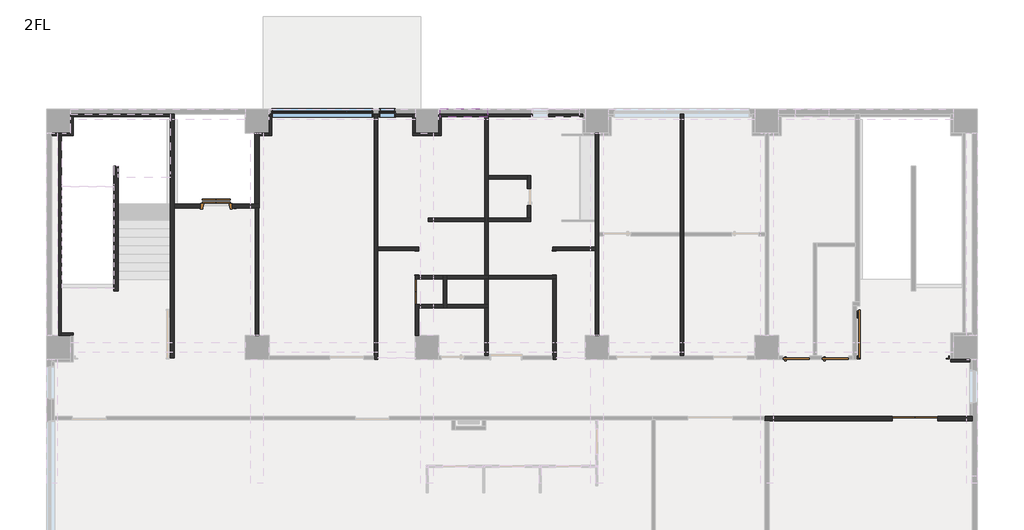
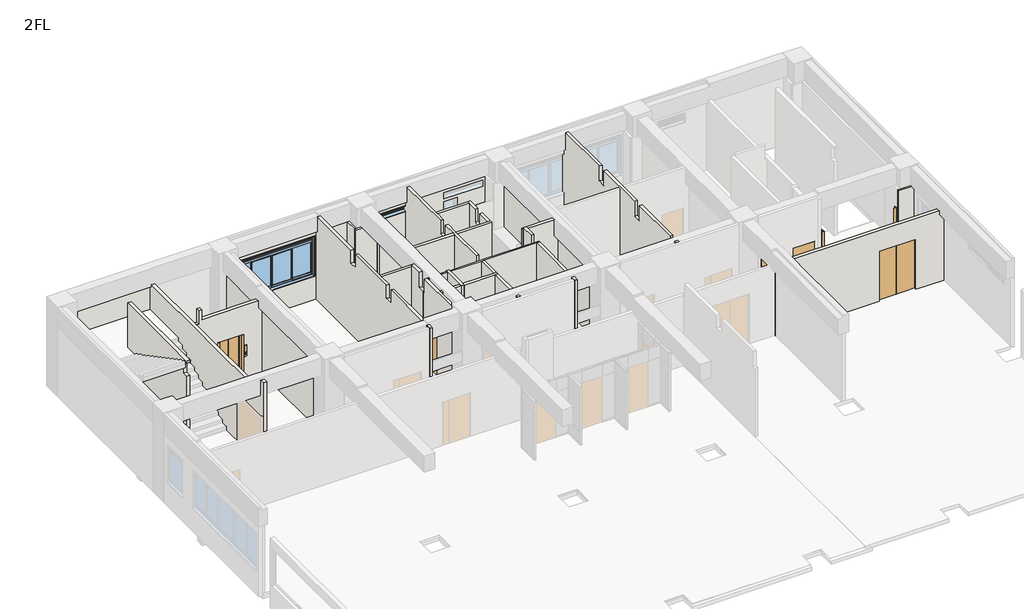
# One storey, part 3 of 7: 41 walls, 8 doors, 3 windows.
"""IFC4 building model written with IfcOpenShell, lengths in millimetres."""

from ifc_helpers import new_model, si_unit, frame, origin, place, context, project, spatial, polyline, outline, extrude, faceted_brep, transform, mapped, element, save
from components import door_0812e9ce, door_dd0264bc, door_f9cae23c, door_9fa6e922, door_14d6dc4f, sd13_d994cb3e, ag_07_7ad97628, aw5_68b6661f, aw9_1008a672

model = new_model("IFC4")

# Units and contexts
model_context = context("Model", 3, world=origin())
ifc_project = project(units=[si_unit("LENGTHUNIT", "METRE", prefix="MILLI")], contexts=[model_context])

# Site, building, storey
site = spatial("IfcSite", under=ifc_project)
building = spatial("IfcBuilding", under=site)
storey = spatial("IfcBuildingStorey", under=building, Name="2FL", Elevation=4100.0)

# Doors
placement = place(None, origin())
door_shape = door_0812e9ce(model_context)
element("IfcDoor", 1, ObjectType="営_片開き扉 : LD3 950*2000", at=placement, inside=storey, context=model_context, shape_type="MappedRepresentation", body=[
    mapped(door_shape, transform((27410.0, 15640.0, 4100.0), x_axis=(1.0, 0.0, 0.0), y_axis=(0.0, 1.0, 0.0), z_axis=(0.0, 0.0, 1.0))),
])
element("IfcDoor", 2, ObjectType="営_片開き扉 : SD4b 950*2000", at=placement, inside=storey, context=model_context, shape_type="MappedRepresentation", body=[
    mapped(door_shape, transform((26030.0, 15640.0, 4100.0), x_axis=(1.0, 0.0, 0.0), y_axis=(0.0, 1.0, 0.0), z_axis=(0.0, 0.0, 1.0))),
])
door_2_shape = door_dd0264bc(model_context)
element("IfcDoor", 3, ObjectType="営_両開き扉 : SD3b 1600*2300", at=placement, inside=storey, context=model_context, shape_type="MappedRepresentation", body=[
    mapped(door_2_shape, transform((30235.0, 13485.0, 4100.0), x_axis=(1.0, 0.0, 0.0), y_axis=(0.0, 1.0, 0.0), z_axis=(0.0, 0.0, 1.0))),
])
door_3_shape = door_f9cae23c(model_context)
element("IfcDoor", 4, ObjectType="営_両開き扉 : LD5 900*2000", at=placement, inside=storey, context=model_context, shape_type="MappedRepresentation", body=[
    mapped(door_3_shape, transform((12640.0, 17975.0, 4100.0), x_axis=(0.0, 1.0, 0.0), y_axis=(-1.0, 0.0, 0.0), z_axis=(0.0, 0.0, 1.0))),
])
door_4_shape = door_9fa6e922(model_context)
element("IfcDoor", 5, ObjectType="営_EVドア : EVドア", at=placement, inside=storey, context=model_context, shape_type="MappedRepresentation", body=[
    mapped(door_4_shape, transform((5560.0, 21000.0, 4100.0), x_axis=(1.0, 0.0, 0.0), y_axis=(0.0, 1.0, 0.0), z_axis=(0.0, 0.0, 1.0))),
])
door_5_shape = door_14d6dc4f(model_context)
element("IfcDoor", 6, ObjectType="営_三方枠 : S1_850*2000", at=placement, inside=storey, context=model_context, shape_type="MappedRepresentation", body=[
    mapped(door_5_shape, transform((12640.0, 18990.25, 4100.0), x_axis=(0.0, 1.0, 0.0), y_axis=(-1.0, 0.0, 0.0), z_axis=(0.0, 0.0, 1.0))),
])
element("IfcDoor", 7, ObjectType="営_三方枠 : S1_850*2000", at=placement, inside=storey, context=model_context, shape_type="MappedRepresentation", body=[
    mapped(door_5_shape, transform((17500.0, 18990.25, 4100.0), x_axis=(0.0, 1.0, 0.0), y_axis=(-1.0, 0.0, 0.0), z_axis=(0.0, 0.0, 1.0))),
])
sd13_shape = sd13_d994cb3e(model_context)
element("IfcDoor", 8, ObjectType="営_随閉扉 B階段 2～4F : SD13", at=placement, inside=storey, context=model_context, shape_type="MappedRepresentation", body=[
    mapped(sd13_shape, transform((28100.0, 15640.0, 4100.0), x_axis=(0.0, -1.0, 0.0), y_axis=(1.0, 0.0, 0.0), z_axis=(0.0, 0.0, 1.0))),
])

# Walls
element("IfcWall", 9, ObjectType="(内壁)150_RC", at=placement, inside=storey, context=model_context, shape_type="Brep", body=[
    faceted_brep([(29435.0, 13560.0, 6400.0), (29435.0, 13560.0, 4100.0), (24925.0, 13560.0, 4100.0), (24925.0, 13560.0, 7200.0), (25225.0, 13560.0, 7200.0), (25225.0, 13560.0, 7350.0), (32050.0, 13560.0, 7350.0), (32050.0, 13560.0, 7200.0), (32160.0, 13560.0, 7200.0), (32250.0, 13560.0, 7200.0), (32250.0, 13560.0, 4100.0), (32160.0, 13560.0, 4100.0), (31035.0, 13560.0, 4100.0), (31035.0, 13560.0, 6400.0), (29435.0, 13410.0, 4100.0), (29435.0, 13410.0, 6400.0), (31035.0, 13410.0, 6400.0), (31035.0, 13410.0, 4100.0), (32250.0, 13410.0, 4100.0), (32250.0, 13410.0, 7200.0), (32050.0, 13410.0, 7200.0), (32050.0, 13410.0, 7350.0), (25225.0, 13410.0, 7350.0), (25225.0, 13410.0, 7200.0), (25075.0, 13410.0, 7200.0), (24925.0, 13410.0, 7200.0), (24925.0, 13410.0, 4100.0), (25075.0, 13410.0, 4100.0), (24925.0, 13440.0, 4100.0), (24925.0, 13440.0, 7200.0)], [[[0, 1, 2, 3, 4, 5, 6, 7, 8, 9, 10, 11, 12, 13]], [[14, 15, 16, 17, 18, 19, 20, 21, 22, 23, 24, 25, 26, 27]], [[10, 18, 17, 12, 11]], [[26, 28, 2, 1, 14, 27]], [[2, 28, 26, 25, 29, 3]], [[1, 0, 15, 14]], [[13, 12, 17, 16]], [[0, 13, 16, 15]], [[4, 23, 22, 5]], [[23, 4, 3, 29, 25, 24]], [[7, 20, 19, 9, 8]], [[20, 7, 6, 21]], [[6, 5, 22, 21]], [[18, 10, 9, 19]]]),
])
element("IfcWall", 10, ObjectType="(内壁)W4", at=placement, inside=storey, context=model_context, shape_type="Brep", body=[
    faceted_brep([(18940.0, 23580.0, 4100.0), (18940.0, 23490.0, 4100.0), (18940.0, 19550.0, 4100.0), (18940.0, 19430.0, 4100.0), (18940.0, 16420.0, 4100.0), (18940.0, 16420.0, 7200.0), (18940.0, 19430.0, 7200.0), (18940.0, 19550.0, 7200.0), (18940.0, 23490.0, 7200.0), (18940.0, 23580.0, 7200.0), (19060.0, 16420.0, 4100.0), (19060.0, 19940.0, 4100.0), (19060.0, 20060.0, 4100.0), (19060.0, 23490.0, 4100.0), (19060.0, 23580.0, 4100.0), (19060.0, 23580.0, 7200.0), (19060.0, 23490.0, 7200.0), (19060.0, 20060.0, 7200.0), (19060.0, 19940.0, 7200.0), (19060.0, 16420.0, 7200.0)], [[[0, 1, 2, 3, 4, 5, 6, 7, 8, 9]], [[10, 11, 12, 13, 14, 15, 16, 17, 18, 19]], [[10, 4, 3, 2, 1, 0, 14, 13, 12, 11]], [[4, 10, 19, 5]], [[14, 0, 9, 15]], [[9, 8, 7, 6, 5, 19, 18, 17, 16, 15]]]),
])
element("IfcWall", 11, ObjectType="(内壁)W3", at=placement, inside=storey, context=model_context, shape_type="Brep", body=[
    faceted_brep([(21940.0, 24250.0, 4100.0), (21940.0, 20060.0, 4100.0), (21940.0, 19940.0, 4100.0), (21940.0, 15700.0, 4100.0), (21940.0, 15700.0, 8040.0), (21940.0, 15825.0, 8040.0), (21940.0, 15825.0, 7250.0), (21940.0, 16175.0, 7250.0), (21940.0, 16175.0, 8040.0), (21940.0, 18495.0, 8040.0), (21940.0, 18495.0, 7350.0), (21940.0, 18845.0, 7350.0), (21940.0, 18845.0, 8040.0), (21940.0, 21165.0, 8040.0), (21940.0, 21165.0, 7350.0), (21940.0, 21515.0, 7350.0), (21940.0, 21515.0, 8040.0), (21940.0, 24050.0, 8040.0), (21940.0, 24050.0, 7250.0), (21940.0, 24250.0, 7250.0), (22060.0, 15700.0, 4100.0), (22060.0, 19940.0, 4100.0), (22060.0, 20060.0, 4100.0), (22060.0, 24250.0, 4100.0), (22060.0, 24250.0, 7250.0), (22060.0, 24050.0, 7250.0), (22060.0, 24050.0, 8040.0), (22060.0, 21515.0, 8040.0), (22060.0, 21515.0, 7350.0), (22060.0, 21165.0, 7350.0), (22060.0, 21165.0, 8040.0), (22060.0, 18845.0, 8040.0), (22060.0, 18845.0, 7350.0), (22060.0, 18495.0, 7350.0), (22060.0, 18495.0, 8040.0), (22060.0, 16175.0, 8040.0), (22060.0, 16175.0, 7250.0), (22060.0, 15825.0, 7250.0), (22060.0, 15825.0, 8040.0), (22060.0, 15700.0, 8040.0)], [[[0, 1, 2, 3, 4, 5, 6, 7, 8, 9, 10, 11, 12, 13, 14, 15, 16, 17, 18, 19]], [[20, 21, 22, 23, 24, 25, 26, 27, 28, 29, 30, 31, 32, 33, 34, 35, 36, 37, 38, 39]], [[3, 2, 1, 0, 23, 22, 21, 20]], [[4, 39, 38, 5]], [[8, 35, 34, 9]], [[26, 17, 16, 27]], [[12, 31, 30, 13]], [[23, 0, 19, 24]], [[4, 3, 20, 39]], [[37, 6, 5, 38]], [[6, 37, 36, 7]], [[7, 36, 35, 8]], [[25, 18, 17, 26]], [[18, 25, 24, 19]], [[33, 10, 9, 34]], [[10, 33, 32, 11]], [[11, 32, 31, 12]], [[29, 14, 13, 30]], [[14, 29, 28, 15]], [[15, 28, 27, 16]]]),
])
element("IfcWall", 12, ObjectType="(内壁)150_RC", at=placement, inside=storey, context=model_context, shape_type="Brep", body=[
    faceted_brep([(3925.0, 24250.0, 4100.0), (3925.0, 15635.0, 4100.0), (3925.0, 15635.0, 7950.0), (3925.0, 15825.0, 7950.0), (3925.0, 15825.0, 7350.0), (3925.0, 24050.0, 7350.0), (3925.0, 24050.0, 7250.0), (3925.0, 24250.0, 7250.0), (4075.0, 15635.0, 4100.0), (4075.0, 20925.0, 4100.0), (4075.0, 21075.0, 4100.0), (4075.0, 24250.0, 4100.0), (4075.0, 24250.0, 7250.0), (4075.0, 24050.0, 7250.0), (4075.0, 24050.0, 7350.0), (4075.0, 21075.0, 7350.0), (4075.0, 20925.0, 7350.0), (4075.0, 15825.0, 7350.0), (4075.0, 15825.0, 7950.0), (4075.0, 15635.0, 7950.0)], [[[0, 1, 2, 3, 4, 5, 6, 7]], [[8, 9, 10, 11, 12, 13, 14, 15, 16, 17, 18, 19]], [[1, 0, 11, 10, 9, 8]], [[2, 1, 8, 19]], [[2, 19, 18, 3]], [[11, 0, 7, 12]], [[13, 6, 5, 14]], [[6, 13, 12, 7]], [[4, 17, 16, 15, 14, 5]], [[17, 4, 3, 18]]]),
])
element("IfcWall", 13, ObjectType="(内壁)150_RC", at=placement, inside=storey, context=model_context, shape_type="Brep", body=[
    faceted_brep([(7075.0, 20925.0, 7200.0), (7060.0, 20925.0, 7200.0), (6940.0, 20925.0, 7200.0), (6775.0, 20925.0, 7200.0), (6775.0, 20925.0, 7500.0), (4306.3, 20925.0, 7500.0), (4306.3, 20925.0, 7950.0), (4175.0, 20925.0, 7950.0), (4175.0, 20925.0, 7350.0), (4075.0, 20925.0, 7350.0), (4075.0, 20925.0, 4100.0), (5000.0, 20925.0, 4100.0), (5000.0, 20925.0, 6200.0), (6120.0, 20925.0, 6200.0), (6120.0, 20925.0, 4100.0), (6940.0, 20925.0, 4100.0), (7060.0, 20925.0, 4100.0), (7075.0, 20925.0, 4100.0), (6775.0, 21075.0, 7200.0), (6925.0, 21075.0, 7200.0), (7075.0, 21075.0, 7200.0), (7075.0, 21075.0, 4100.0), (6925.0, 21075.0, 4100.0), (6120.0, 21075.0, 4100.0), (6120.0, 21075.0, 6200.0), (5000.0, 21075.0, 6200.0), (5000.0, 21075.0, 4100.0), (4075.0, 21075.0, 4100.0), (4075.0, 21075.0, 7350.0), (4175.0, 21075.0, 7350.0), (4175.0, 21075.0, 7950.0), (4306.3, 21075.0, 7950.0), (4306.3, 21075.0, 7500.0), (6775.0, 21075.0, 7500.0)], [[[0, 1, 2, 3, 4, 5, 6, 7, 8, 9, 10, 11, 12, 13, 14, 15, 16, 17]], [[18, 19, 20, 21, 22, 23, 24, 25, 26, 27, 28, 29, 30, 31, 32, 33]], [[21, 17, 16, 15, 14, 23, 22]], [[10, 27, 26, 11]], [[6, 31, 30, 7]], [[17, 21, 20, 0]], [[27, 10, 9, 28]], [[18, 3, 2, 1, 0, 20, 19]], [[3, 18, 33, 4]], [[26, 25, 12, 11]], [[24, 23, 14, 13]], [[25, 24, 13, 12]], [[5, 32, 31, 6]], [[32, 5, 4, 33]], [[29, 8, 7, 30]], [[8, 29, 28, 9]]]),
])
element("IfcWall", 14, ObjectType="(内壁)150_RC", at=placement, inside=storey, context=model_context, shape_type="Brep", body=[
    faceted_brep([(7075.0, 21075.0, 4100.0), (7075.0, 23490.0, 4100.0), (7075.0, 23580.0, 4100.0), (7075.0, 23580.0, 7200.0), (7075.0, 23490.0, 7200.0), (7075.0, 21075.0, 7200.0), (6925.0, 23580.0, 4100.0), (6925.0, 21075.0, 4100.0), (6925.0, 21075.0, 7200.0), (6925.0, 23580.0, 7200.0)], [[[0, 1, 2, 3, 4, 5]], [[6, 7, 8, 9]], [[0, 7, 6, 2, 1]], [[7, 0, 5, 8]], [[2, 6, 9, 3]], [[5, 4, 3, 9, 8]]]),
])
element("IfcWall", 15, ObjectType="(内壁)W4", at=placement, inside=storey, context=model_context, shape_type="SweptSolid", body=[
    extrude(outline(polyline([(6940.0, 20925.0), (7060.0, 20925.0), (7060.0, 16420.0), (6940.0, 16420.0), (6940.0, 20925.0)])), frame((0.0, 0.0, 4100.0), z_axis=(0.0, 0.0, 1.0), x_axis=(1.0, 0.0, 0.0)), (0.0, 0.0, 1.0), 3100.0),
])
element("IfcWall", 16, ObjectType="(内壁)W4", at=placement, inside=storey, context=model_context, shape_type="Brep", body=[
    faceted_brep([(11140.0, 24250.0, 4100.0), (11140.0, 15700.0, 4100.0), (11140.0, 15580.0, 4100.0), (11140.0, 15580.0, 7950.0), (11140.0, 15700.0, 7950.0), (11140.0, 15825.0, 7950.0), (11140.0, 15825.0, 7250.0), (11140.0, 16175.0, 7250.0), (11140.0, 16175.0, 7950.0), (11140.0, 18495.0, 7950.0), (11140.0, 18495.0, 7350.0), (11140.0, 18845.0, 7350.0), (11140.0, 18845.0, 7950.0), (11140.0, 21165.0, 7950.0), (11140.0, 21165.0, 7350.0), (11140.0, 21515.0, 7350.0), (11140.0, 21515.0, 7950.0), (11140.0, 24050.0, 7950.0), (11140.0, 24050.0, 7250.0), (11140.0, 24250.0, 7250.0), (11260.0, 15580.0, 4100.0), (11260.0, 19430.0, 4100.0), (11260.0, 19550.0, 4100.0), (11260.0, 24250.0, 4100.0), (11260.0, 24250.0, 7250.0), (11260.0, 24050.0, 7250.0), (11260.0, 24050.0, 7950.0), (11260.0, 21515.0, 7950.0), (11260.0, 21515.0, 7350.0), (11260.0, 21165.0, 7350.0), (11260.0, 21165.0, 7950.0), (11260.0, 19550.0, 7950.0), (11260.0, 19430.0, 7950.0), (11260.0, 18845.0, 7950.0), (11260.0, 18845.0, 7350.0), (11260.0, 18495.0, 7350.0), (11260.0, 18495.0, 7950.0), (11260.0, 16175.0, 7950.0), (11260.0, 16175.0, 7250.0), (11260.0, 15825.0, 7250.0), (11260.0, 15825.0, 7950.0), (11260.0, 15580.0, 7950.0), (11200.0, 15825.0, 7950.0), (11200.0, 16175.0, 7950.0), (11200.0, 18495.0, 7950.0), (11200.0, 24050.0, 7950.0), (11200.0, 21515.0, 7950.0), (11200.0, 18845.0, 7950.0), (11200.0, 21165.0, 7950.0)], [[[0, 1, 2, 3, 4, 5, 6, 7, 8, 9, 10, 11, 12, 13, 14, 15, 16, 17, 18, 19]], [[20, 21, 22, 23, 24, 25, 26, 27, 28, 29, 30, 31, 32, 33, 34, 35, 36, 37, 38, 39, 40, 41]], [[2, 1, 0, 23, 22, 21, 20]], [[5, 4, 3, 41, 40, 42]], [[8, 43, 37, 36, 44, 9]], [[26, 45, 17, 16, 46, 27]], [[12, 47, 33, 32, 31, 30, 48, 13]], [[23, 0, 19, 24]], [[39, 6, 5, 42, 40]], [[6, 39, 38, 7]], [[7, 38, 37, 43, 8]], [[25, 18, 17, 45, 26]], [[18, 25, 24, 19]], [[35, 10, 9, 44, 36]], [[10, 35, 34, 11]], [[11, 34, 33, 47, 12]], [[29, 14, 13, 48, 30]], [[14, 29, 28, 15]], [[15, 28, 27, 46, 16]], [[3, 2, 20, 41]]]),
])
element("IfcWall", 17, ObjectType="(内壁)W4", at=placement, inside=storey, context=model_context, shape_type="Brep", body=[
    faceted_brep([(15040.0, 24250.0, 4100.0), (15040.0, 20570.0, 4100.0), (15040.0, 20450.0, 4100.0), (15040.0, 18550.0, 4100.0), (15040.0, 18550.0, 7350.0), (15040.0, 18845.0, 7350.0), (15040.0, 18845.0, 7950.0), (15040.0, 20450.0, 7950.0), (15040.0, 20570.0, 7950.0), (15040.0, 21165.0, 7950.0), (15040.0, 21165.0, 7350.0), (15040.0, 21515.0, 7350.0), (15040.0, 21515.0, 7950.0), (15040.0, 24050.0, 7950.0), (15040.0, 24050.0, 7250.0), (15040.0, 24250.0, 7250.0), (15160.0, 18550.0, 4100.0), (15160.0, 20450.0, 4100.0), (15160.0, 20570.0, 4100.0), (15160.0, 21950.0, 4100.0), (15160.0, 22070.0, 4100.0), (15160.0, 24250.0, 4100.0), (15160.0, 24250.0, 7250.0), (15160.0, 24050.0, 7250.0), (15160.0, 24050.0, 7950.0), (15160.0, 22070.0, 7950.0), (15160.0, 21950.0, 7950.0), (15160.0, 21515.0, 7950.0), (15160.0, 21515.0, 7350.0), (15160.0, 21165.0, 7350.0), (15160.0, 21165.0, 7950.0), (15160.0, 20570.0, 7950.0), (15160.0, 20450.0, 7950.0), (15160.0, 18845.0, 7950.0), (15160.0, 18845.0, 7350.0), (15160.0, 18550.0, 7350.0)], [[[0, 1, 2, 3, 4, 5, 6, 7, 8, 9, 10, 11, 12, 13, 14, 15]], [[16, 17, 18, 19, 20, 21, 22, 23, 24, 25, 26, 27, 28, 29, 30, 31, 32, 33, 34, 35]], [[3, 2, 1, 0, 21, 20, 19, 18, 17, 16]], [[24, 13, 12, 27, 26, 25]], [[6, 33, 32, 31, 30, 9, 8, 7]], [[21, 0, 15, 22]], [[23, 14, 13, 24]], [[14, 23, 22, 15]], [[34, 5, 4, 35]], [[5, 34, 33, 6]], [[29, 10, 9, 30]], [[10, 29, 28, 11]], [[11, 28, 27, 12]], [[3, 16, 35, 4]]]),
])
element("IfcWall", 18, ObjectType="(内壁)W4", at=placement, inside=storey, context=model_context, shape_type="Brep", body=[
    faceted_brep([(12700.0, 17525.0, 4100.0), (12700.0, 17525.0, 6100.0), (12700.0, 18425.0, 6100.0), (12700.0, 18425.0, 4100.0), (12700.0, 18430.0, 4100.0), (12700.0, 18550.0, 4100.0), (12700.0, 18550.0, 7350.0), (12700.0, 18495.0, 7350.0), (12700.0, 18495.0, 7950.0), (12700.0, 18430.0, 7950.0), (12700.0, 17520.0, 7950.0), (12700.0, 17400.0, 7950.0), (12700.0, 16420.0, 7950.0), (12700.0, 16420.0, 4100.0), (12700.0, 17400.0, 4100.0), (12700.0, 17520.0, 4100.0), (12580.0, 17525.0, 6100.0), (12580.0, 17525.0, 4100.0), (12580.0, 16420.0, 4100.0), (12580.0, 16420.0, 7950.0), (12580.0, 18495.0, 7950.0), (12580.0, 18495.0, 7350.0), (12580.0, 18550.0, 7350.0), (12580.0, 18550.0, 4100.0), (12580.0, 18425.0, 4100.0), (12580.0, 18425.0, 6100.0)], [[[0, 1, 2, 3, 4, 5, 6, 7, 8, 9, 10, 11, 12, 13, 14, 15]], [[16, 17, 18, 19, 20, 21, 22, 23, 24, 25]], [[17, 0, 15, 14, 13, 18]], [[23, 5, 4, 3, 24]], [[19, 12, 11, 10, 9, 8, 20]], [[5, 23, 22, 6]], [[17, 16, 1, 0]], [[25, 24, 3, 2]], [[16, 25, 2, 1]], [[13, 12, 19, 18]], [[7, 21, 20, 8]], [[21, 7, 6, 22]]]),
])
element("IfcWall", 19, ObjectType="(内壁)W4", at=placement, inside=storey, context=model_context, shape_type="Brep", body=[
    faceted_brep([(12700.0, 18430.0, 4100.0), (13570.0, 18430.0, 4100.0), (13570.0, 18430.0, 7950.0), (13225.0, 18430.0, 7950.0), (13225.0, 18430.0, 7200.0), (12775.0, 18430.0, 7200.0), (12775.0, 18430.0, 7950.0), (12700.0, 18430.0, 7950.0), (13570.0, 18550.0, 4100.0), (12700.0, 18550.0, 4100.0), (12700.0, 18550.0, 7350.0), (12775.0, 18550.0, 7350.0), (12775.0, 18550.0, 7200.0), (13225.0, 18550.0, 7200.0), (13225.0, 18550.0, 7350.0), (13570.0, 18550.0, 7350.0), (12775.0, 18495.0, 7950.0), (12700.0, 18495.0, 7950.0), (13225.0, 18495.0, 7950.0), (13570.0, 18495.0, 7950.0), (12700.0, 18495.0, 7350.0), (13225.0, 18495.0, 7350.0), (12775.0, 18495.0, 7350.0), (13570.0, 18495.0, 7350.0)], [[[0, 1, 2, 3, 4, 5, 6, 7]], [[8, 9, 10, 11, 12, 13, 14, 15]], [[1, 0, 9, 8]], [[6, 16, 17, 7]], [[18, 3, 2, 19]], [[0, 7, 17, 20, 10, 9]], [[13, 4, 3, 18, 21, 14]], [[4, 13, 12, 5]], [[5, 12, 11, 22, 16, 6]], [[18, 19, 23, 21]], [[15, 14, 21, 23]], [[22, 20, 17, 16]], [[20, 22, 11, 10]], [[2, 1, 8, 15, 23, 19]]]),
])
element("IfcWall", 20, ObjectType="(内壁)W4", at=placement, inside=storey, context=model_context, shape_type="Brep", body=[
    faceted_brep([(17440.0, 18430.0, 4100.0), (17440.0, 15700.0, 4100.0), (17440.0, 15580.0, 4100.0), (17440.0, 15580.0, 7950.0), (17440.0, 15700.0, 7950.0), (17440.0, 15825.0, 7950.0), (17440.0, 15825.0, 7250.0), (17440.0, 16175.0, 7250.0), (17440.0, 16175.0, 7950.0), (17440.0, 18430.0, 7950.0), (17560.0, 15580.0, 4100.0), (17560.0, 18430.0, 4100.0), (17560.0, 18430.0, 7950.0), (17560.0, 16175.0, 7950.0), (17560.0, 16175.0, 7250.0), (17560.0, 15825.0, 7250.0), (17560.0, 15825.0, 7950.0), (17560.0, 15580.0, 7950.0)], [[[0, 1, 2, 3, 4, 5, 6, 7, 8, 9]], [[10, 11, 12, 13, 14, 15, 16, 17]], [[2, 1, 0, 11, 10]], [[12, 9, 8, 13]], [[3, 17, 16, 5, 4]], [[0, 9, 12, 11]], [[15, 6, 5, 16]], [[6, 15, 14, 7]], [[7, 14, 13, 8]], [[3, 2, 10, 17]]]),
])
element("IfcWall", 21, ObjectType="(内壁)W4", at=placement, inside=storey, context=model_context, shape_type="SweptSolid", body=[
    extrude(outline(polyline([(4100.0, 12700.0), (4100.0, 13570.0), (7950.0, 13570.0), (7950.0, 13225.0), (7200.0, 13225.0), (7200.0, 12775.0), (7950.0, 12775.0), (7950.0, 12700.0), (4100.0, 12700.0)])), frame((0.0, 17400.0, 0.0), z_axis=(0.0, 1.0, 0.0), x_axis=(0.0, 0.0, 1.0)), (0.0, 0.0, 1.0), 120.0),
])
element("IfcWall", 22, ObjectType="(内壁)W1", at=placement, inside=storey, context=model_context, shape_type="Brep", body=[
    faceted_brep([(13690.0, 17400.0, 4100.0), (13690.0, 17520.0, 4100.0), (13690.0, 18430.0, 4100.0), (13690.0, 18550.0, 4100.0), (13690.0, 18550.0, 7350.0), (13690.0, 18550.0, 7950.0), (13690.0, 18495.0, 7950.0), (13690.0, 18430.0, 7950.0), (13690.0, 17520.0, 7950.0), (13690.0, 17400.0, 7950.0), (13570.0, 17400.0, 4100.0), (13570.0, 17400.0, 7950.0), (13570.0, 17520.0, 7950.0), (13570.0, 18430.0, 7950.0), (13570.0, 18495.0, 7950.0), (13570.0, 18550.0, 7950.0), (13570.0, 18550.0, 7350.0), (13570.0, 18550.0, 4100.0), (13570.0, 18430.0, 4100.0), (13570.0, 17520.0, 4100.0)], [[[0, 1, 2, 3, 4, 5, 6, 7, 8, 9]], [[10, 11, 12, 13, 14, 15, 16, 17, 18, 19]], [[3, 2, 1, 0, 10, 19, 18, 17]], [[9, 8, 7, 6, 5, 15, 14, 13, 12, 11]], [[5, 4, 3, 17, 16, 15]], [[0, 9, 11, 10]]]),
])
element("IfcWall", 23, ObjectType="(内壁)W4", at=placement, inside=storey, context=model_context, shape_type="SweptSolid", body=[
    extrude(outline(polyline([(4100.0, 13040.0), (4100.0, 15040.0), (7950.0, 15040.0), (7950.0, 13225.0), (7200.0, 13225.0), (7200.0, 13040.0), (4100.0, 13040.0)])), frame((0.0, 20450.0, 0.0), z_axis=(0.0, 1.0, 0.0), x_axis=(0.0, 0.0, 1.0)), (0.0, 0.0, 1.0), 120.0),
])
element("IfcWall", 24, ObjectType="(内壁)W3", at=placement, inside=storey, context=model_context, shape_type="Brep", body=[
    faceted_brep([(16660.0, 20570.0, 7950.0), (16660.0, 20570.0, 4100.0), (16660.0, 21010.0, 4100.0), (16660.0, 21010.0, 6100.0), (16660.0, 21610.0, 6100.0), (16660.0, 21610.0, 4100.0), (16660.0, 22070.0, 4100.0), (16660.0, 22070.0, 7950.0), (16660.0, 21515.0, 7950.0), (16660.0, 21515.0, 7350.0), (16660.0, 21165.0, 7350.0), (16660.0, 21165.0, 7950.0), (16540.0, 20570.0, 4100.0), (16540.0, 20570.0, 7950.0), (16540.0, 21165.0, 7950.0), (16540.0, 21165.0, 7350.0), (16540.0, 21515.0, 7350.0), (16540.0, 21515.0, 7950.0), (16540.0, 21950.0, 7950.0), (16540.0, 22070.0, 7950.0), (16540.0, 22070.0, 4100.0), (16540.0, 21950.0, 4100.0), (16540.0, 21610.0, 4100.0), (16540.0, 21610.0, 6100.0), (16540.0, 21010.0, 6100.0), (16540.0, 21010.0, 4100.0)], [[[0, 1, 2, 3, 4, 5, 6, 7, 8, 9, 10, 11]], [[12, 13, 14, 15, 16, 17, 18, 19, 20, 21, 22, 23, 24, 25]], [[1, 12, 25, 2]], [[20, 6, 5, 22, 21]], [[13, 0, 11, 14]], [[7, 19, 18, 17, 8]], [[1, 0, 13, 12]], [[7, 6, 20, 19]], [[25, 24, 3, 2]], [[23, 22, 5, 4]], [[24, 23, 4, 3]], [[10, 15, 14, 11]], [[15, 10, 9, 16]], [[16, 9, 8, 17]]]),
])
element("IfcWall", 25, ObjectType="(内壁)W3", at=placement, inside=storey, context=model_context, shape_type="SweptSolid", body=[
    extrude(outline(polyline([(15160.0, 22070.0), (16540.0, 22070.0), (16540.0, 21950.0), (15160.0, 21950.0), (15160.0, 22070.0)])), frame((0.0, 0.0, 4100.0), z_axis=(0.0, 0.0, 1.0), x_axis=(1.0, 0.0, 0.0)), (0.0, 0.0, 1.0), 3850.0),
])
element("IfcWall", 26, ObjectType="(内壁)W4", at=placement, inside=storey, context=model_context, shape_type="Brep", body=[
    faceted_brep([(17440.0, 19430.0, 4100.0), (17560.0, 19430.0, 4100.0), (18940.0, 19430.0, 4100.0), (18940.0, 19430.0, 7200.0), (18775.0, 19430.0, 7200.0), (18775.0, 19430.0, 7950.0), (17440.0, 19430.0, 7950.0), (18940.0, 19550.0, 4100.0), (17440.0, 19550.0, 4100.0), (17440.0, 19550.0, 7950.0), (18775.0, 19550.0, 7950.0), (18775.0, 19550.0, 7200.0), (18940.0, 19550.0, 7200.0)], [[[0, 1, 2, 3, 4, 5, 6]], [[7, 8, 9, 10, 11, 12]], [[2, 1, 0, 8, 7]], [[9, 6, 5, 10]], [[2, 7, 12, 3]], [[11, 4, 3, 12]], [[4, 11, 10, 5]], [[0, 6, 9, 8]]]),
])
element("IfcWall", 27, ObjectType="(内壁)W4", at=placement, inside=storey, context=model_context, shape_type="Brep", body=[
    faceted_brep([(11260.0, 19430.0, 4100.0), (12580.0, 19430.0, 4100.0), (12700.0, 19430.0, 4100.0), (12700.0, 19430.0, 7950.0), (11260.0, 19430.0, 7950.0), (11260.0, 19550.0, 4100.0), (11260.0, 19550.0, 7950.0), (12700.0, 19550.0, 7950.0), (12700.0, 19550.0, 4100.0)], [[[0, 1, 2, 3, 4]], [[5, 6, 7, 8]], [[2, 1, 0, 5, 8]], [[4, 3, 7, 6]], [[0, 4, 6, 5]], [[3, 2, 8, 7]]]),
])
element("IfcWall", 28, ObjectType="(内壁)120_部屋境界OFF", at=placement, inside=storey, context=model_context, shape_type="Brep", body=[
    faceted_brep([(12700.0, 18550.0, 4100.0), (12700.0, 18555.25, 4100.0), (12700.0, 18555.25, 6110.0), (12700.0, 19425.25, 6110.0), (12700.0, 19425.25, 4100.0), (12700.0, 19430.0, 4100.0), (12700.0, 19430.0, 7950.0), (12700.0, 19430.0, 8050.0), (12700.0, 18845.0, 8050.0), (12700.0, 18845.0, 7350.0), (12700.0, 18550.0, 7350.0), (12580.0, 18555.25, 4100.0), (12580.0, 18550.0, 4100.0), (12580.0, 18550.0, 7350.0), (12580.0, 18845.0, 7350.0), (12580.0, 18845.0, 8050.0), (12580.0, 19430.0, 8050.0), (12580.0, 19430.0, 4100.0), (12580.0, 19425.25, 4100.0), (12580.0, 19425.25, 6110.0), (12580.0, 18555.25, 6110.0)], [[[0, 1, 2, 3, 4, 5, 6, 7, 8, 9, 10]], [[11, 12, 13, 14, 15, 16, 17, 18, 19, 20]], [[12, 11, 1, 0]], [[5, 4, 18, 17]], [[7, 16, 15, 8]], [[12, 0, 10, 13]], [[20, 2, 1, 11]], [[2, 20, 19, 3]], [[3, 19, 18, 4]], [[7, 6, 5, 17, 16]], [[9, 14, 13, 10]], [[14, 9, 8, 15]]]),
])
element("IfcWall", 29, ObjectType="(内壁)120_部屋境界OFF", at=placement, inside=storey, context=model_context, shape_type="Brep", body=[
    faceted_brep([(17560.0, 18550.0, 4100.0), (17560.0, 18555.25, 4100.0), (17560.0, 18555.25, 6110.0), (17560.0, 19425.25, 6110.0), (17560.0, 19425.25, 4100.0), (17560.0, 19430.0, 4100.0), (17560.0, 19430.0, 8050.0), (17560.0, 18845.0, 8050.0), (17560.0, 18845.0, 7350.0), (17560.0, 18550.0, 7350.0), (17440.0, 18555.25, 4100.0), (17440.0, 18550.0, 4100.0), (17440.0, 18550.0, 7350.0), (17440.0, 18845.0, 7350.0), (17440.0, 18845.0, 8050.0), (17440.0, 19430.0, 8050.0), (17440.0, 19430.0, 7950.0), (17440.0, 19430.0, 4100.0), (17440.0, 19425.25, 4100.0), (17440.0, 19425.25, 6110.0), (17440.0, 18555.25, 6110.0)], [[[0, 1, 2, 3, 4, 5, 6, 7, 8, 9]], [[10, 11, 12, 13, 14, 15, 16, 17, 18, 19, 20]], [[11, 10, 1, 0]], [[5, 4, 18, 17]], [[6, 15, 14, 7]], [[11, 0, 9, 12]], [[6, 5, 17, 16, 15]], [[20, 2, 1, 10]], [[2, 20, 19, 3]], [[3, 19, 18, 4]], [[8, 13, 12, 9]], [[13, 8, 7, 14]]]),
])
element("IfcWall", 30, ObjectType="(内壁)W3", at=placement, inside=storey, context=model_context, shape_type="Brep", body=[
    faceted_brep([(15160.0, 20450.0, 4100.0), (16660.0, 20450.0, 4100.0), (16660.0, 20450.0, 7950.0), (15160.0, 20450.0, 7950.0), (15160.0, 20570.0, 4100.0), (15160.0, 20570.0, 7950.0), (16540.0, 20570.0, 7950.0), (16660.0, 20570.0, 7950.0), (16660.0, 20570.0, 4100.0), (16540.0, 20570.0, 4100.0)], [[[0, 1, 2, 3]], [[4, 5, 6, 7, 8, 9]], [[1, 0, 4, 9, 8]], [[3, 2, 7, 6, 5]], [[2, 1, 8, 7]], [[0, 3, 5, 4]]]),
])
element("IfcWall", 31, ObjectType="(内壁)150_RC", at=placement, inside=storey, context=model_context, shape_type="Brep", body=[
    faceted_brep([(2095.0, 18005.0, 4100.0), (2095.0, 22410.0, 4100.0), (2095.0, 22410.0, 8200.0), (2095.0, 18005.0, 8200.0), (2095.0, 18005.0, 8100.0), (2095.0, 18225.0, 8100.0), (2095.0, 18225.0, 8040.0), (2095.0, 18225.0, 7500.0), (2095.0, 18005.0, 7500.0), (1945.0, 22410.0, 4100.0), (1945.0, 18005.0, 4100.0), (1945.0, 18005.0, 7500.0), (1945.0, 18225.0, 7500.0), (1945.0, 18225.0, 8100.0), (1945.0, 18100.0, 8100.0), (1945.0, 18005.0, 8100.0), (1945.0, 18005.0, 8200.0), (1945.0, 22410.0, 8200.0)], [[[0, 1, 2, 3, 4, 5, 6, 7, 8]], [[9, 10, 11, 12, 13, 14, 15, 16, 17]], [[1, 0, 10, 9]], [[2, 1, 9, 17]], [[3, 2, 17, 16]], [[3, 16, 15, 4]], [[10, 0, 8, 11]], [[7, 12, 11, 8]], [[12, 7, 6, 5, 13]], [[13, 5, 4, 15, 14]]]),
])
element("IfcWall", 32, ObjectType="(内壁)W5", at=placement, inside=storey, context=model_context, shape_type="Brep", body=[
    faceted_brep([(32160.0, 15580.0, 4100.0), (31580.0, 15580.0, 4100.0), (31490.0, 15580.0, 4100.0), (31490.0, 15580.0, 7200.0), (31580.0, 15580.0, 7200.0), (32160.0, 15580.0, 7200.0), (32160.0, 15490.0, 4100.0), (32160.0, 15490.0, 7200.0), (31490.0, 15490.0, 7200.0), (31490.0, 15490.0, 4100.0)], [[[0, 1, 2, 3, 4, 5]], [[6, 7, 8, 9]], [[2, 1, 0, 6, 9]], [[5, 4, 3, 8, 7]], [[0, 5, 7, 6]], [[3, 2, 9, 8]]]),
])
element("IfcWall", 33, ObjectType="(内壁)W5", at=placement, inside=storey, context=model_context, shape_type="Brep", body=[
    faceted_brep([(18490.0, 24250.0, 4100.0), (13420.0, 24250.0, 4100.0), (13420.0, 24250.0, 7200.0), (18490.0, 24250.0, 7200.0), (16710.0, 24250.0, 6620.0), (16710.0, 24250.0, 5165.0), (17290.0, 24250.0, 5165.0), (17290.0, 24250.0, 6620.0), (18380.0, 24250.0, 6765.0), (18380.0, 24250.0, 7035.0), (16700.0, 24250.0, 7035.0), (16700.0, 24250.0, 6765.0), (15140.0, 24250.0, 6765.0), (15140.0, 24250.0, 7035.0), (13460.0, 24250.0, 7035.0), (13460.0, 24250.0, 6765.0), (13420.0, 24160.0, 4100.0), (13510.0, 24160.0, 4100.0), (18490.0, 24160.0, 4100.0), (18490.0, 24160.0, 7200.0), (13510.0, 24160.0, 7200.0), (13420.0, 24160.0, 7200.0), (16710.0, 24160.0, 5165.0), (16710.0, 24160.0, 6620.0), (17290.0, 24160.0, 6620.0), (17290.0, 24160.0, 5165.0), (18380.0, 24160.0, 7035.0), (18380.0, 24160.0, 6765.0), (16700.0, 24160.0, 6765.0), (16700.0, 24160.0, 7035.0), (15140.0, 24160.0, 7035.0), (15140.0, 24160.0, 6765.0), (13460.0, 24160.0, 6765.0), (13460.0, 24160.0, 7035.0)], [[[0, 1, 2, 3], [4, 5, 6, 7], [8, 9, 10, 11], [12, 13, 14, 15]], [[16, 17, 18, 19, 20, 21], [22, 23, 24, 25], [26, 27, 28, 29], [30, 31, 32, 33]], [[1, 0, 18, 17, 16]], [[3, 2, 21, 20, 19]], [[0, 3, 19, 18]], [[2, 1, 16, 21]], [[22, 5, 4, 23]], [[24, 7, 6, 25]], [[5, 22, 25, 6]], [[23, 4, 7, 24]], [[26, 9, 8, 27]], [[28, 11, 10, 29]], [[27, 8, 11, 28]], [[9, 26, 29, 10]], [[30, 13, 12, 31]], [[32, 15, 14, 33]], [[31, 12, 15, 32]], [[13, 30, 33, 14]]]),
])
element("IfcWall", 34, ObjectType="(内壁)W5", at=placement, inside=storey, context=model_context, shape_type="Brep", body=[
    faceted_brep([(13420.0, 24160.0, 4100.0), (13420.0, 23580.0, 4100.0), (13420.0, 23490.0, 4100.0), (13420.0, 23490.0, 7200.0), (13420.0, 23580.0, 7200.0), (13420.0, 24160.0, 7200.0), (13510.0, 24160.0, 4100.0), (13510.0, 24160.0, 7200.0), (13510.0, 23490.0, 7200.0), (13510.0, 23490.0, 4100.0)], [[[0, 1, 2, 3, 4, 5]], [[6, 7, 8, 9]], [[2, 1, 0, 6, 9]], [[5, 4, 3, 8, 7]], [[0, 5, 7, 6]], [[3, 2, 9, 8]]]),
])
element("IfcWall", 35, ObjectType="(内壁)W5", at=placement, inside=storey, context=model_context, shape_type="Brep", body=[
    faceted_brep([(13420.0, 23580.0, 4100.0), (12580.0, 23580.0, 4100.0), (12490.0, 23580.0, 4100.0), (12490.0, 23580.0, 7200.0), (12580.0, 23580.0, 7200.0), (13420.0, 23580.0, 7200.0), (13420.0, 23490.0, 4100.0), (13420.0, 23490.0, 7200.0), (12490.0, 23490.0, 7200.0), (12490.0, 23490.0, 4100.0)], [[[0, 1, 2, 3, 4, 5]], [[6, 7, 8, 9]], [[2, 1, 0, 6, 9]], [[5, 4, 3, 8, 7]], [[0, 5, 7, 6]], [[3, 2, 9, 8]]]),
])
element("IfcWall", 36, ObjectType="(内壁)W5", at=placement, inside=storey, context=model_context, shape_type="Brep", body=[
    faceted_brep([(12580.0, 23580.0, 4100.0), (12580.0, 24250.0, 4100.0), (12580.0, 24250.0, 7200.0), (12580.0, 23580.0, 7200.0), (12490.0, 23580.0, 4100.0), (12490.0, 23580.0, 7200.0), (12490.0, 24160.6075581, 7200.0), (12490.0, 24250.0, 7200.0), (12490.0, 24250.0, 4100.0), (12490.0, 24160.6075581, 4100.0)], [[[0, 1, 2, 3]], [[4, 5, 6, 7, 8, 9]], [[1, 0, 4, 9, 8]], [[3, 2, 7, 6, 5]], [[0, 3, 5, 4]], [[2, 1, 8, 7]]]),
])
element("IfcWall", 37, ObjectType="(内壁)W5", at=placement, inside=storey, context=model_context, shape_type="Brep", body=[
    faceted_brep([(7420.0, 24160.6075581, 4100.0), (7510.0, 24160.6075581, 4100.0), (12490.0, 24160.6075581, 4100.0), (12490.0, 24160.6075581, 7200.0), (7510.0, 24160.6075581, 7200.0), (7420.0, 24160.6075581, 7200.0), (11310.0, 24160.6075581, 5165.0), (11310.0, 24160.6075581, 7020.0), (11890.0, 24160.6075581, 7020.0), (11890.0, 24160.6075581, 5165.0), (11090.0, 24160.6075581, 7020.0), (11090.0, 24160.6075581, 5165.0), (7510.0, 24160.6075581, 5165.0), (7510.0, 24160.6075581, 7020.0), (7420.0, 24250.0, 4100.0), (12490.0, 24250.0, 4100.0), (12490.0, 24250.0, 7200.0), (7420.0, 24250.0, 7200.0), (11310.0, 24250.0, 7020.0), (11310.0, 24250.0, 5165.0), (11890.0, 24250.0, 5165.0), (11890.0, 24250.0, 7020.0), (11090.0, 24250.0, 5165.0), (11090.0, 24250.0, 7020.0), (7510.0, 24250.0, 7020.0), (7510.0, 24250.0, 5165.0)], [[[0, 1, 2, 3, 4, 5], [6, 7, 8, 9], [10, 11, 12, 13]], [[2, 1, 0, 14, 15]], [[5, 4, 3, 16, 17]], [[0, 5, 17, 14]], [[3, 2, 15, 16]], [[15, 14, 17, 16], [18, 19, 20, 21], [22, 23, 24, 25]], [[7, 6, 19, 18]], [[9, 8, 21, 20]], [[6, 9, 20, 19]], [[8, 7, 18, 21]], [[11, 10, 23, 22]], [[13, 12, 25, 24]], [[12, 11, 22, 25]], [[10, 13, 24, 23]]]),
])
element("IfcWall", 38, ObjectType="(内壁)W5", at=placement, inside=storey, context=model_context, shape_type="Brep", body=[
    faceted_brep([(7420.0, 24160.6075581, 4100.0), (7420.0, 23580.0, 4100.0), (7420.0, 23490.0, 4100.0), (7420.0, 23490.0, 7200.0), (7420.0, 23580.0, 7200.0), (7420.0, 24160.6075581, 7200.0), (7510.0, 24160.6075581, 4100.0), (7510.0, 24160.6075581, 5165.0), (7510.0, 24160.6075581, 7020.0), (7510.0, 24160.6075581, 7200.0), (7510.0, 23490.0, 7200.0), (7510.0, 23490.0, 4100.0)], [[[0, 1, 2, 3, 4, 5]], [[6, 7, 8, 9, 10, 11]], [[2, 1, 0, 6, 11]], [[5, 4, 3, 10, 9]], [[0, 5, 9, 8, 7, 6]], [[3, 2, 11, 10]]]),
])
element("IfcWall", 39, ObjectType="(内壁)W5", at=placement, inside=storey, context=model_context, shape_type="SweptSolid", body=[
    extrude(outline(polyline([(7075.0, 23580.0), (7420.0, 23580.0), (7420.0, 23490.0), (7075.0, 23490.0), (7075.0, 23580.0)])), frame((0.0, 0.0, 4100.0), z_axis=(0.0, 0.0, 1.0), x_axis=(1.0, 0.0, 0.0)), (0.0, 0.0, 1.0), 3100.0),
])
element("IfcWall", 40, ObjectType="(内壁)W5", at=placement, inside=storey, context=model_context, shape_type="Brep", body=[
    faceted_brep([(3925.0, 24250.0, 4100.0), (420.0, 24250.0, 4100.0), (420.0, 24250.0, 7200.0), (3925.0, 24250.0, 7200.0), (3925.0, 24160.0, 4100.0), (3925.0, 24160.0, 7200.0), (510.0, 24160.0, 7200.0), (420.0, 24160.0, 7200.0), (420.0, 24160.0, 4100.0), (510.0, 24160.0, 4100.0)], [[[0, 1, 2, 3]], [[4, 5, 6, 7, 8, 9]], [[1, 0, 4, 9, 8]], [[3, 2, 7, 6, 5]], [[0, 3, 5, 4]], [[2, 1, 8, 7]]]),
])
element("IfcWall", 41, ObjectType="(内壁)W5", at=placement, inside=storey, context=model_context, shape_type="Brep", body=[
    faceted_brep([(420.0, 24160.0, 4100.0), (420.0, 23580.0, 4100.0), (420.0, 23490.0, 4100.0), (420.0, 23490.0, 7200.0), (420.0, 23580.0, 7200.0), (420.0, 24160.0, 7200.0), (510.0, 24160.0, 4100.0), (510.0, 24160.0, 7200.0), (510.0, 23490.0, 7200.0), (510.0, 23490.0, 4100.0)], [[[0, 1, 2, 3, 4, 5]], [[6, 7, 8, 9]], [[2, 1, 0, 6, 9]], [[5, 4, 3, 8, 7]], [[0, 5, 7, 6]], [[3, 2, 9, 8]]]),
])
element("IfcWall", 42, ObjectType="(内壁)W5", at=placement, inside=storey, context=model_context, shape_type="Brep", body=[
    faceted_brep([(420.0, 23580.0, 4100.0), (-250.0, 23580.0, 4100.0), (-250.0, 23580.0, 7200.0), (420.0, 23580.0, 7200.0), (420.0, 23490.0, 4100.0), (420.0, 23490.0, 7200.0), (90.0, 23490.0, 7200.0), (0.0, 23490.0, 7200.0), (-250.0, 23490.0, 7200.0), (-250.0, 23490.0, 4100.0), (0.0, 23490.0, 4100.0), (90.0, 23490.0, 4100.0)], [[[0, 1, 2, 3]], [[4, 5, 6, 7, 8, 9, 10, 11]], [[1, 0, 4, 11, 10, 9]], [[3, 2, 8, 7, 6, 5]], [[0, 3, 5, 4]], [[2, 1, 9, 8]]]),
])
element("IfcWall", 43, ObjectType="(内壁)W5", at=placement, inside=storey, context=model_context, shape_type="Brep", body=[
    faceted_brep([(0.0, 23490.0, 4100.0), (0.0, 16420.0, 4100.0), (0.0, 16420.0, 7200.0), (0.0, 23490.0, 7200.0), (90.0, 23490.0, 4100.0), (90.0, 23490.0, 7200.0), (90.0, 16510.0, 7200.0), (90.0, 16420.0, 7200.0), (90.0, 16420.0, 4100.0), (90.0, 16510.0, 4100.0)], [[[0, 1, 2, 3]], [[4, 5, 6, 7, 8, 9]], [[1, 0, 4, 9, 8]], [[3, 2, 7, 6, 5]], [[0, 3, 5, 4]], [[2, 1, 8, 7]]]),
])
element("IfcWall", 44, ObjectType="(内壁)W5", at=placement, inside=storey, context=model_context, shape_type="Brep", body=[
    faceted_brep([(90.0, 16420.0, 4100.0), (420.0, 16420.0, 4100.0), (510.0, 16420.0, 4100.0), (510.0, 16420.0, 7200.0), (420.0, 16420.0, 7200.0), (90.0, 16420.0, 7200.0), (90.0, 16510.0, 4100.0), (90.0, 16510.0, 7200.0), (510.0, 16510.0, 7200.0), (510.0, 16510.0, 4100.0)], [[[0, 1, 2, 3, 4, 5]], [[6, 7, 8, 9]], [[2, 1, 0, 6, 9]], [[5, 4, 3, 8, 7]], [[0, 5, 7, 6]], [[3, 2, 9, 8]]]),
])
element("IfcWall", 45, ObjectType="(内壁)W1", at=placement, inside=storey, context=model_context, shape_type="Brep", body=[
    faceted_brep([(13690.0, 17400.0, 4100.0), (15040.0, 17400.0, 4100.0), (15160.0, 17400.0, 4100.0), (15160.0, 17400.0, 7950.0), (15040.0, 17400.0, 7950.0), (13690.0, 17400.0, 7950.0), (13690.0, 17520.0, 4100.0), (13690.0, 17520.0, 7950.0), (15040.0, 17520.0, 7950.0), (15160.0, 17520.0, 7950.0), (15160.0, 17520.0, 4100.0), (15040.0, 17520.0, 4100.0)], [[[0, 1, 2, 3, 4, 5]], [[6, 7, 8, 9, 10, 11]], [[2, 1, 0, 6, 11, 10]], [[5, 4, 3, 9, 8, 7]], [[0, 5, 7, 6]], [[3, 2, 10, 9]]]),
])
element("IfcWall", 46, ObjectType="(内壁)W1", at=placement, inside=storey, context=model_context, shape_type="Brep", body=[
    faceted_brep([(13690.0, 18430.0, 4100.0), (15040.0, 18430.0, 4100.0), (15160.0, 18430.0, 4100.0), (15160.0, 18430.0, 7950.0), (15040.0, 18430.0, 7950.0), (13690.0, 18430.0, 7950.0), (15160.0, 18550.0, 4100.0), (15040.0, 18550.0, 4100.0), (13690.0, 18550.0, 4100.0), (13690.0, 18550.0, 7350.0), (15040.0, 18550.0, 7350.0), (15160.0, 18550.0, 7350.0), (15160.0, 18495.0, 7950.0), (13690.0, 18495.0, 7950.0), (15160.0, 18495.0, 7350.0), (13690.0, 18495.0, 7350.0)], [[[0, 1, 2, 3, 4, 5]], [[6, 7, 8, 9, 10, 11]], [[2, 1, 0, 8, 7, 6]], [[5, 4, 3, 12, 13]], [[14, 15, 13, 12]], [[15, 14, 11, 10, 9]], [[0, 5, 13, 15, 9, 8]], [[3, 2, 6, 11, 14, 12]]]),
])
element("IfcWall", 47, ObjectType="(内壁)W1", at=placement, inside=storey, context=model_context, shape_type="SweptSolid", body=[
    extrude(outline(polyline([(15040.0, 17520.0), (15040.0, 18430.0), (15160.0, 18430.0), (15160.0, 17520.0), (15040.0, 17520.0)])), frame((0.0, 0.0, 4100.0), z_axis=(0.0, 0.0, 1.0), x_axis=(1.0, 0.0, 0.0)), (0.0, 0.0, 1.0), 3850.0),
])
element("IfcWall", 48, ObjectType="(内壁)W4", at=placement, inside=storey, context=model_context, shape_type="Brep", body=[
    faceted_brep([(15160.0, 18430.0, 4100.0), (17440.0, 18430.0, 4100.0), (17560.0, 18430.0, 4100.0), (17560.0, 18430.0, 7950.0), (17440.0, 18430.0, 7950.0), (15160.0, 18430.0, 7950.0), (17560.0, 18550.0, 4100.0), (17440.0, 18550.0, 4100.0), (15160.0, 18550.0, 4100.0), (15160.0, 18550.0, 7350.0), (17440.0, 18550.0, 7350.0), (17560.0, 18550.0, 7350.0), (17560.0, 18495.0, 7950.0), (15160.0, 18495.0, 7950.0), (17560.0, 18495.0, 7350.0), (15160.0, 18495.0, 7350.0)], [[[0, 1, 2, 3, 4, 5]], [[6, 7, 8, 9, 10, 11]], [[2, 1, 0, 8, 7, 6]], [[5, 4, 3, 12, 13]], [[3, 2, 6, 11, 14, 12]], [[14, 15, 13, 12]], [[15, 14, 11, 10, 9]], [[0, 5, 13, 15, 9, 8]]]),
])
element("IfcWall", 49, ObjectType="(内壁)W4", at=placement, inside=storey, context=model_context, shape_type="SweptSolid", body=[
    extrude(outline(polyline([(17400.0, 4100.0), (15700.0, 4100.0), (15700.0, 7950.0), (15825.0, 7950.0), (15825.0, 7250.0), (16175.0, 7250.0), (16175.0, 7950.0), (17400.0, 7950.0), (17400.0, 4100.0)])), frame((15040.0, 0.0, 0.0), z_axis=(1.0, 0.0, 0.0), x_axis=(0.0, 1.0, 0.0)), (0.0, 0.0, 1.0), 120.0),
])

# Windows
ag_07_shape = ag_07_7ad97628(model_context)
element("IfcWindow", 50, ObjectType="営_単窓_ガラリ : AG-07", at=placement, inside=storey, context=model_context, shape_type="MappedRepresentation", body=[
    mapped(ag_07_shape, transform((14300.0, 24335.0, 5600.0), x_axis=(1.0, 0.0, 0.0), y_axis=(0.0, 1.0, 0.0), z_axis=(0.0, 0.0, 1.0))),
])
aw5_shape = aw5_68b6661f(model_context)
element("IfcWindow", 51, ObjectType="営_連段窓_引違い/ガラリ : AW5", at=placement, inside=storey, context=model_context, shape_type="MappedRepresentation", body=[
    mapped(aw5_shape, transform((9300.0, 24335.0, 4100.0), x_axis=(1.0, 0.0, 0.0), y_axis=(0.0, 1.0, 0.0), z_axis=(0.0, 0.0, 1.0))),
])
aw9_shape = aw9_1008a672(model_context)
element("IfcWindow", 52, ObjectType="営_段窓_縦辷出し/ガラリ : AW9", at=placement, inside=storey, context=model_context, shape_type="MappedRepresentation", body=[
    mapped(aw9_shape, transform((11600.0, 24335.0, 4100.0), x_axis=(-1.0, 0.0, 0.0), y_axis=(0.0, -1.0, 0.0), z_axis=(0.0, 0.0, 1.0))),
])

save(model, "model.ifc")
